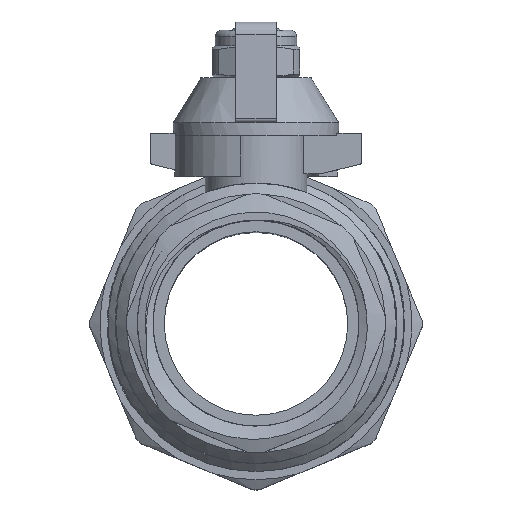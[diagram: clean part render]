
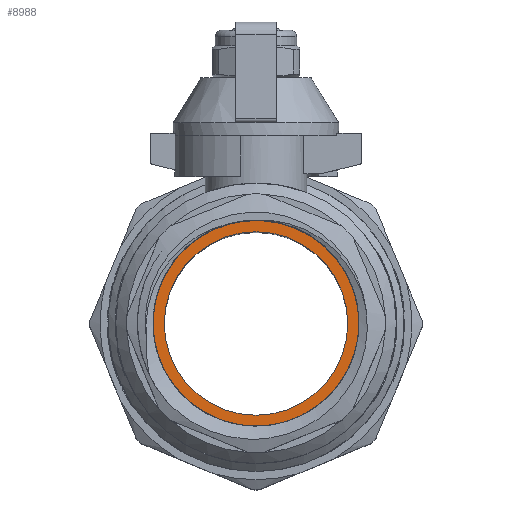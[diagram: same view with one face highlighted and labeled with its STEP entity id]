
A CAD part, top view. The second image highlights one B-rep face of the part: STEP entity #8988.
In plain terms, the highlighted planar face has unit normal (0, 0, 1).
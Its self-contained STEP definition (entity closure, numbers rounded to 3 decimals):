
#168=FACE_BOUND('',#1566,.T.);
#359=PLANE('',#9602);
#1010=FACE_OUTER_BOUND('',#1565,.T.);
#1565=EDGE_LOOP('',(#8069));
#1566=EDGE_LOOP('',(#8070));
#3483=CIRCLE('',#9598,13.5);
#3485=CIRCLE('',#9601,15.15);
#4331=VERTEX_POINT('',#23755);
#4332=VERTEX_POINT('',#23759);
#5611=EDGE_CURVE('',#4331,#4331,#3483,.T.);
#5613=EDGE_CURVE('',#4332,#4332,#3485,.T.);
#8069=ORIENTED_EDGE('',*,*,#5613,.F.);
#8070=ORIENTED_EDGE('',*,*,#5611,.T.);
#8988=ADVANCED_FACE('',(#1010,#168),#359,.T.);
#9598=AXIS2_PLACEMENT_3D('',#23756,#11283,#11284);
#9601=AXIS2_PLACEMENT_3D('',#23760,#11289,#11290);
#9602=AXIS2_PLACEMENT_3D('',#23761,#11291,#11292);
#11283=DIRECTION('center_axis',(0.,0.,-1.));
#11284=DIRECTION('ref_axis',(-1.,0.,0.));
#11289=DIRECTION('center_axis',(0.,0.,-1.));
#11290=DIRECTION('ref_axis',(-1.,0.,0.));
#11291=DIRECTION('center_axis',(0.,0.,1.));
#11292=DIRECTION('ref_axis',(1.,0.,0.));
#23755=CARTESIAN_POINT('',(13.5,0.,0.));
#23756=CARTESIAN_POINT('Origin',(0.,0.,0.));
#23759=CARTESIAN_POINT('',(15.15,0.,0.));
#23760=CARTESIAN_POINT('Origin',(0.,0.,0.));
#23761=CARTESIAN_POINT('Origin',(0.,0.,0.));
